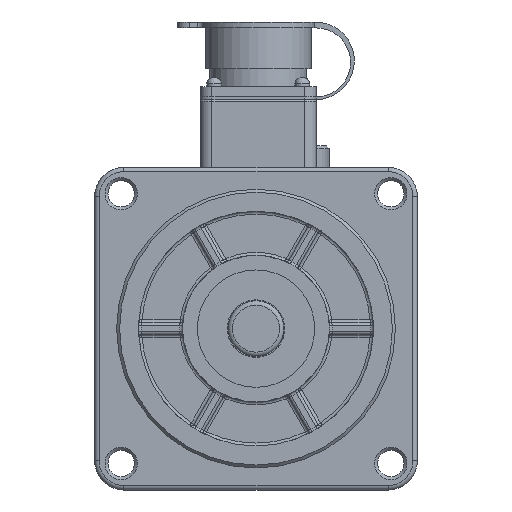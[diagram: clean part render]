
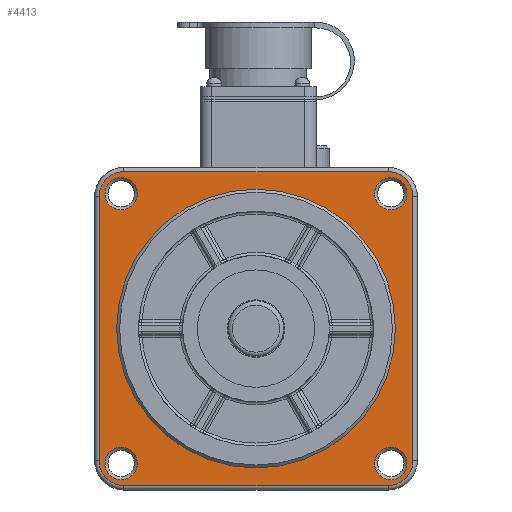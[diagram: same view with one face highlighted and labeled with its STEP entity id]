
A CAD part, front view. The second image highlights one B-rep face of the part: STEP entity #4413.
In plain terms, the highlighted planar face has unit normal (0, -1, 0).
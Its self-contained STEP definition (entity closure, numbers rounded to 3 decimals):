
#1127=LINE('',#27377,#2035);
#1128=LINE('',#27382,#2036);
#1129=LINE('',#27386,#2037);
#1130=LINE('',#27390,#2038);
#2035=VECTOR('',#21383,1.);
#2036=VECTOR('',#21386,1.);
#2037=VECTOR('',#21389,1.);
#2038=VECTOR('',#21392,1.);
#2853=PLANE('',#17392);
#4413=ADVANCED_FACE('',(#5541,#5542,#5543,#5544,#5545,#5546),#2853,.F.);
#5541=FACE_BOUND('',#6435,.T.);
#5542=FACE_BOUND('',#6436,.T.);
#5543=FACE_BOUND('',#6437,.T.);
#5544=FACE_BOUND('',#6438,.T.);
#5545=FACE_BOUND('',#6439,.T.);
#5546=FACE_BOUND('',#6440,.T.);
#6435=EDGE_LOOP('',(#9598,#9599,#9600,#9601,#9602,#9603,#9604,#9605));
#6436=EDGE_LOOP('',(#9606));
#6437=EDGE_LOOP('',(#9607));
#6438=EDGE_LOOP('',(#9608));
#6439=EDGE_LOOP('',(#9609));
#6440=EDGE_LOOP('',(#9610));
#9598=ORIENTED_EDGE('',*,*,#14188,.T.);
#9599=ORIENTED_EDGE('',*,*,#14189,.T.);
#9600=ORIENTED_EDGE('',*,*,#14190,.T.);
#9601=ORIENTED_EDGE('',*,*,#14191,.T.);
#9602=ORIENTED_EDGE('',*,*,#14192,.T.);
#9603=ORIENTED_EDGE('',*,*,#14193,.T.);
#9604=ORIENTED_EDGE('',*,*,#14194,.T.);
#9605=ORIENTED_EDGE('',*,*,#14195,.T.);
#9606=ORIENTED_EDGE('',*,*,#14171,.T.);
#9607=ORIENTED_EDGE('',*,*,#14196,.F.);
#9608=ORIENTED_EDGE('',*,*,#14197,.T.);
#9609=ORIENTED_EDGE('',*,*,#14198,.T.);
#9610=ORIENTED_EDGE('',*,*,#14199,.T.);
#12335=VERTEX_POINT('',#27313);
#12348=VERTEX_POINT('',#27378);
#12349=VERTEX_POINT('',#27379);
#12350=VERTEX_POINT('',#27381);
#12351=VERTEX_POINT('',#27383);
#12352=VERTEX_POINT('',#27385);
#12353=VERTEX_POINT('',#27387);
#12354=VERTEX_POINT('',#27389);
#12355=VERTEX_POINT('',#27391);
#12356=VERTEX_POINT('',#27394);
#12357=VERTEX_POINT('',#27396);
#12358=VERTEX_POINT('',#27398);
#12359=VERTEX_POINT('',#27400);
#14171=EDGE_CURVE('',#12335,#12335,#15648,.T.);
#14188=EDGE_CURVE('',#12348,#12349,#1127,.T.);
#14189=EDGE_CURVE('',#12349,#12350,#15661,.T.);
#14190=EDGE_CURVE('',#12350,#12351,#1128,.T.);
#14191=EDGE_CURVE('',#12351,#12352,#15662,.T.);
#14192=EDGE_CURVE('',#12352,#12353,#1129,.T.);
#14193=EDGE_CURVE('',#12353,#12354,#15663,.T.);
#14194=EDGE_CURVE('',#12354,#12355,#1130,.T.);
#14195=EDGE_CURVE('',#12355,#12348,#15664,.T.);
#14196=EDGE_CURVE('',#12356,#12356,#15665,.T.);
#14197=EDGE_CURVE('',#12357,#12357,#15666,.T.);
#14198=EDGE_CURVE('',#12358,#12358,#15667,.T.);
#14199=EDGE_CURVE('',#12359,#12359,#15668,.T.);
#15648=CIRCLE('',#17366,5.5);
#15661=CIRCLE('',#17384,8.5);
#15662=CIRCLE('',#17385,8.5);
#15663=CIRCLE('',#17386,8.5);
#15664=CIRCLE('',#17387,8.5);
#15665=CIRCLE('',#17388,47.5);
#15666=CIRCLE('',#17389,5.5);
#15667=CIRCLE('',#17390,5.5);
#15668=CIRCLE('',#17391,5.5);
#17366=AXIS2_PLACEMENT_3D('',#27312,#21345,#21346);
#17384=AXIS2_PLACEMENT_3D('',#27380,#21384,#21385);
#17385=AXIS2_PLACEMENT_3D('',#27384,#21387,#21388);
#17386=AXIS2_PLACEMENT_3D('',#27388,#21390,#21391);
#17387=AXIS2_PLACEMENT_3D('',#27392,#21393,#21394);
#17388=AXIS2_PLACEMENT_3D('',#27393,#21395,#21396);
#17389=AXIS2_PLACEMENT_3D('',#27395,#21397,#21398);
#17390=AXIS2_PLACEMENT_3D('',#27397,#21399,#21400);
#17391=AXIS2_PLACEMENT_3D('',#27399,#21401,#21402);
#17392=AXIS2_PLACEMENT_3D('',#27401,#21403,#21404);
#21345=DIRECTION('',(0.,1.,0.));
#21346=DIRECTION('',(-1.,0.,0.));
#21383=DIRECTION('',(0.,0.,1.));
#21384=DIRECTION('',(0.,-1.,0.));
#21385=DIRECTION('',(0.,0.,1.));
#21386=DIRECTION('',(-1.,0.,0.));
#21387=DIRECTION('',(0.,-1.,0.));
#21388=DIRECTION('',(0.,0.,1.));
#21389=DIRECTION('',(0.,0.,-1.));
#21390=DIRECTION('',(0.,-1.,0.));
#21391=DIRECTION('',(0.,0.,1.));
#21392=DIRECTION('',(1.,0.,0.));
#21393=DIRECTION('',(0.,-1.,0.));
#21394=DIRECTION('',(0.,0.,1.));
#21395=DIRECTION('',(0.,-1.,0.));
#21396=DIRECTION('',(-1.,0.,0.));
#21397=DIRECTION('',(0.,1.,0.));
#21398=DIRECTION('',(-1.,0.,0.));
#21399=DIRECTION('',(0.,1.,0.));
#21400=DIRECTION('',(-1.,0.,0.));
#21401=DIRECTION('',(0.,1.,0.));
#21402=DIRECTION('',(-1.,0.,0.));
#21403=DIRECTION('',(0.,1.,0.));
#21404=DIRECTION('',(1.,0.,0.));
#27312=CARTESIAN_POINT('',(251.086,101.922,-137.154));
#27313=CARTESIAN_POINT('',(245.586,101.922,-137.154));
#27377=CARTESIAN_POINT('',(258.624,101.922,-46.192));
#27378=CARTESIAN_POINT('',(258.624,101.922,-136.192));
#27379=CARTESIAN_POINT('',(258.624,101.922,-46.192));
#27380=CARTESIAN_POINT('',(250.124,101.922,-46.192));
#27381=CARTESIAN_POINT('',(250.124,101.922,-37.692));
#27382=CARTESIAN_POINT('',(160.124,101.922,-37.692));
#27383=CARTESIAN_POINT('',(160.124,101.922,-37.692));
#27384=CARTESIAN_POINT('',(160.124,101.922,-46.192));
#27385=CARTESIAN_POINT('',(151.624,101.922,-46.192));
#27386=CARTESIAN_POINT('',(151.624,101.922,-136.192));
#27387=CARTESIAN_POINT('',(151.624,101.922,-136.192));
#27388=CARTESIAN_POINT('',(160.124,101.922,-136.192));
#27389=CARTESIAN_POINT('',(160.124,101.922,-144.692));
#27390=CARTESIAN_POINT('',(250.124,101.922,-144.692));
#27391=CARTESIAN_POINT('',(250.124,101.922,-144.692));
#27392=CARTESIAN_POINT('',(250.124,101.922,-136.192));
#27393=CARTESIAN_POINT('',(205.124,101.922,-91.192));
#27394=CARTESIAN_POINT('',(157.624,101.922,-91.192));
#27395=CARTESIAN_POINT('',(251.086,101.922,-45.23));
#27396=CARTESIAN_POINT('',(245.586,101.922,-45.23));
#27397=CARTESIAN_POINT('',(159.162,101.922,-45.23));
#27398=CARTESIAN_POINT('',(153.662,101.922,-45.23));
#27399=CARTESIAN_POINT('',(159.162,101.922,-137.154));
#27400=CARTESIAN_POINT('',(153.662,101.922,-137.154));
#27401=CARTESIAN_POINT('',(205.124,101.922,-91.192));
